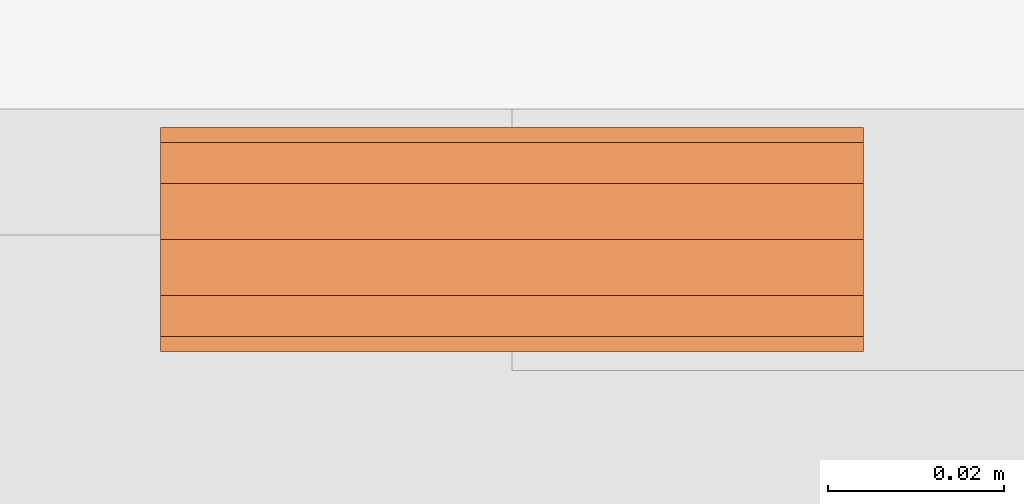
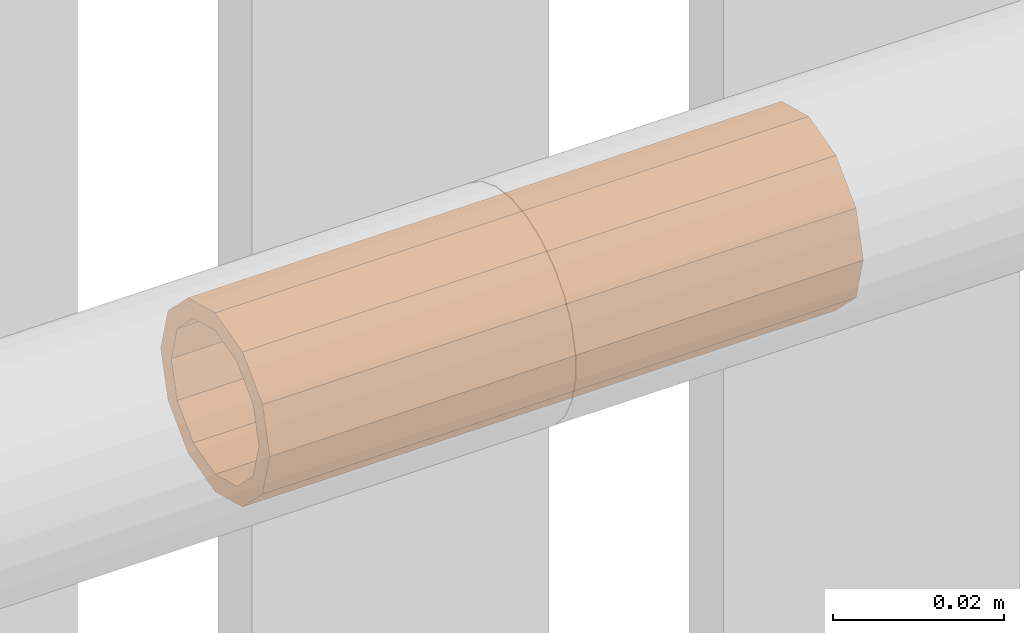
# One storey, part 139 of 145: 1 proxy.
"""IFC2X3 building model written with IfcOpenShell, lengths in millimetres."""

from ifc_helpers import new_model, entity, si_unit, converted_unit, origin_with_axes, place, context, project, spatial, faceted_brep, material, element, save


model = new_model("IFC2X3")

# Units and contexts
model_context = context("Model", 3, precision=1e-09, world=origin_with_axes())
ifc_project = project(units=[si_unit("LENGTHUNIT", "METRE", prefix="MILLI"), si_unit("AREAUNIT", "SQUARE_METRE"), si_unit("VOLUMEUNIT", "CUBIC_METRE"), converted_unit("PLANEANGLEUNIT", "DEGREE", entity("IfcPlaneAngleMeasure", 0.01745329), si_unit("PLANEANGLEUNIT", "RADIAN"), dimensions=[0, 0, 0, 0, 0, 0, 0])], contexts=[model_context])

# Site, building, storey
site_placement = place(None, origin_with_axes())
site = spatial("IfcSite", under=ifc_project, at=site_placement, Name="BZ1 Grund- und Mittelschule 85716 Unterschlei?heim", CompositionType="ELEMENT")
building_placement = place(site_placement, origin_with_axes())
building = spatial("IfcBuilding", under=site, at=building_placement, Name="Struktur 1", CompositionType="ELEMENT")
storey_placement = place(building_placement, origin_with_axes())
storey = spatial("IfcBuildingStorey", under=building, at=storey_placement, Name="Default Storey", CompositionType="ELEMENT", Elevation=0.0)

# Proxy
ifc_material = material(Name="1.4301")
proxy_placement = place(None, origin_with_axes())
element("IfcBuildingElementProxy", 1, at=proxy_placement, inside=storey, material=ifc_material, ObjectType="-", context=model_context, shape_type="Brep", body=[
    faceted_brep([(21253.545893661, -3064.752, 2398.636364), (21253.545893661, -3066.460176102, 2405.011364), (21253.545893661, -3071.127, 2409.678187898), (21253.545893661, -3077.502, 2411.386364), (21253.545893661, -3083.877, 2409.678187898), (21253.545893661, -3088.543823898, 2405.011364), (21253.545893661, -3090.252, 2398.636364), (21253.545893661, -3088.543823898, 2392.261364), (21253.545893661, -3083.877, 2387.594540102), (21253.545893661, -3077.502, 2385.886364), (21253.545893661, -3071.127, 2387.594540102), (21253.545893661, -3066.460176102, 2392.261364), (21253.545893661, -3072.377, 2407.513124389), (21253.545893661, -3068.625239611, 2403.761364), (21253.545893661, -3067.252, 2398.636364), (21253.545893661, -3068.625239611, 2393.511364), (21253.545893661, -3072.377, 2389.759603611), (21253.545893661, -3077.502, 2388.386364), (21253.545893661, -3082.627, 2389.759603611), (21253.545893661, -3086.378760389, 2393.511364), (21253.545893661, -3087.752, 2398.636364), (21253.545893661, -3086.378760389, 2403.761364), (21253.545893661, -3082.627, 2407.513124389), (21253.545893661, -3077.502, 2408.886364), (21173.545893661, -3064.752, 2398.636364), (21173.545893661, -3066.460176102, 2392.261364), (21173.545893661, -3071.127, 2387.594540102), (21173.545893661, -3077.502, 2385.886364), (21173.545893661, -3083.877, 2387.594540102), (21173.545893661, -3088.543823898, 2392.261364), (21173.545893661, -3090.252, 2398.636364), (21173.545893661, -3088.543823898, 2405.011364), (21173.545893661, -3083.877, 2409.678187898), (21173.545893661, -3077.502, 2411.386364), (21173.545893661, -3071.127, 2409.678187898), (21173.545893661, -3066.460176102, 2405.011364), (21173.545893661, -3072.377, 2389.759603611), (21173.545893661, -3068.625239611, 2393.511364), (21173.545893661, -3067.252, 2398.636364), (21173.545893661, -3068.625239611, 2403.761364), (21173.545893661, -3072.377, 2407.513124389), (21173.545893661, -3077.502, 2408.886364), (21173.545893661, -3082.627, 2407.513124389), (21173.545893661, -3086.378760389, 2403.761364), (21173.545893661, -3087.752, 2398.636364), (21173.545893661, -3086.378760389, 2393.511364), (21173.545893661, -3082.627, 2389.759603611), (21173.545893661, -3077.502, 2388.386364)], [[[0, 1, 2, 3, 4, 5, 6, 7, 8, 9, 10, 11], [12, 13, 14, 15, 16, 17, 18, 19, 20, 21, 22, 23]], [[24, 25, 26, 27, 28, 29, 30, 31, 32, 33, 34, 35], [36, 37, 38, 39, 40, 41, 42, 43, 44, 45, 46, 47]], [[24, 0, 11, 25]], [[14, 38, 37, 15]], [[0, 24, 35, 1]], [[38, 14, 13, 39]], [[15, 37, 36, 16]], [[25, 11, 10, 26]], [[34, 2, 1, 35]], [[39, 13, 12, 40]], [[16, 36, 47, 17]], [[9, 27, 26, 10]], [[2, 34, 33, 3]], [[27, 9, 8, 28]], [[3, 33, 32, 4]], [[40, 12, 23, 41]], [[17, 47, 46, 18]], [[28, 8, 7, 29]], [[4, 32, 31, 5]], [[41, 23, 22, 42]], [[6, 30, 29, 7]], [[18, 46, 45, 19]], [[30, 6, 5, 31]], [[42, 22, 21, 43]], [[19, 45, 44, 20]], [[43, 21, 20, 44]]]),
])

save(model, "model.ifc")
